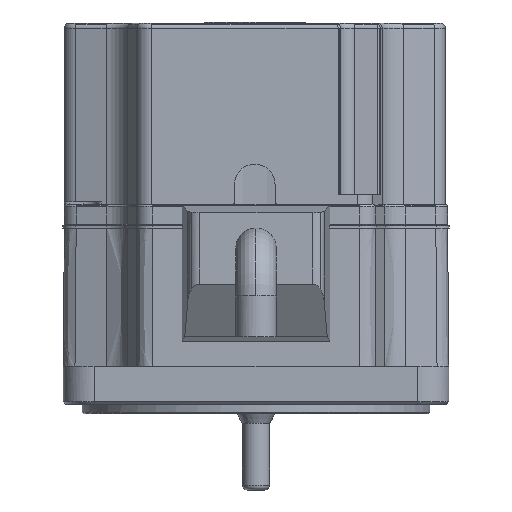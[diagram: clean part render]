
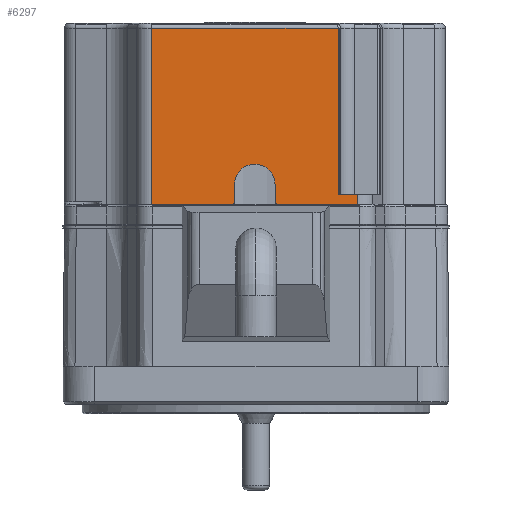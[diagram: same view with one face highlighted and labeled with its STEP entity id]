
A CAD part, front view. The second image highlights one B-rep face of the part: STEP entity #6297.
In plain terms, the highlighted planar face has unit normal (0, -1, 0) as drawn and (1, 0, 0) by its records, which use the part's own axes.
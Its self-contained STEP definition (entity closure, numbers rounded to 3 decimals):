
#213 = ORIENTED_EDGE ( 'NONE', *, *, #12255, .T. ) ;
#217 = LINE ( 'NONE', #8548, #13377 ) ;
#362 = CARTESIAN_POINT ( 'NONE',  ( 40., -21.661, 0. ) ) ;
#797 = ORIENTED_EDGE ( 'NONE', *, *, #5822, .T. ) ;
#825 = DIRECTION ( 'NONE',  ( -1., 0., 0. ) ) ;
#875 = CARTESIAN_POINT ( 'NONE',  ( 40., 4.25, 4.2 ) ) ;
#878 = DIRECTION ( 'NONE',  ( 0., 1., 0. ) ) ;
#913 = EDGE_CURVE ( 'NONE', #14838, #8026, #11823, .T. ) ;
#964 = CARTESIAN_POINT ( 'NONE',  ( 40., -21.661, 37. ) ) ;
#1065 = CARTESIAN_POINT ( 'NONE',  ( 40., 21.661, 2. ) ) ;
#1196 = VECTOR ( 'NONE', #18405, 1000. ) ;
#1235 = VERTEX_POINT ( 'NONE', #17318 ) ;
#1296 = AXIS2_PLACEMENT_3D ( 'NONE', #12077, #7871, #8065 ) ;
#1460 = DIRECTION ( 'NONE',  ( 0., 0., 1. ) ) ;
#1521 = VERTEX_POINT ( 'NONE', #11857 ) ;
#2029 = CARTESIAN_POINT ( 'NONE',  ( 40., -4.75, 0. ) ) ;
#2387 = CARTESIAN_POINT ( 'NONE',  ( 40., -4.25, 0.5 ) ) ;
#2670 = VERTEX_POINT ( 'NONE', #16533 ) ;
#2687 = VERTEX_POINT ( 'NONE', #1065 ) ;
#3032 = AXIS2_PLACEMENT_3D ( 'NONE', #15751, #5175, #10007 ) ;
#3512 = DIRECTION ( 'NONE',  ( 0., -0.707, -0.707 ) ) ;
#3526 = CARTESIAN_POINT ( 'NONE',  ( 40., 0., 4.2 ) ) ;
#3544 = LINE ( 'NONE', #14817, #15244 ) ;
#3633 = VERTEX_POINT ( 'NONE', #14055 ) ;
#3906 = CARTESIAN_POINT ( 'NONE',  ( 40., -21.661, 0. ) ) ;
#3914 = VECTOR ( 'NONE', #17788, 1000. ) ;
#4063 = CIRCLE ( 'NONE', #4357, 4.25 ) ;
#4357 = AXIS2_PLACEMENT_3D ( 'NONE', #3526, #17738, #4851 ) ;
#4365 = CARTESIAN_POINT ( 'NONE',  ( 40., 21.661, -2. ) ) ;
#4457 = EDGE_CURVE ( 'NONE', #15839, #2670, #7276, .T. ) ;
#4460 = LINE ( 'NONE', #362, #16914 ) ;
#4851 = DIRECTION ( 'NONE',  ( 0., 1., 0. ) ) ;
#4901 = ORIENTED_EDGE ( 'NONE', *, *, #8143, .T. ) ;
#5067 = LINE ( 'NONE', #964, #10995 ) ;
#5120 = CARTESIAN_POINT ( 'NONE',  ( 40., 4.75, 0.5 ) ) ;
#5123 = CARTESIAN_POINT ( 'NONE',  ( 40., -4.25, 0.5 ) ) ;
#5175 = DIRECTION ( 'NONE',  ( -1., 0., 0. ) ) ;
#5184 = ORIENTED_EDGE ( 'NONE', *, *, #15363, .F. ) ;
#5185 = DIRECTION ( 'NONE',  ( 0., -1., 0. ) ) ;
#5320 = VERTEX_POINT ( 'NONE', #15242 ) ;
#5347 = ORIENTED_EDGE ( 'NONE', *, *, #11362, .F. ) ;
#5781 = ORIENTED_EDGE ( 'NONE', *, *, #11126, .T. ) ;
#5822 = EDGE_CURVE ( 'NONE', #18355, #2670, #6522, .T. ) ;
#5844 = CIRCLE ( 'NONE', #14682, 0.5 ) ;
#5991 = DIRECTION ( 'NONE',  ( 0., -1., 0. ) ) ;
#6297 = ADVANCED_FACE ( 'NONE', ( #8677 ), #6772, .T. ) ;
#6381 = EDGE_CURVE ( 'NONE', #5320, #1235, #4460, .T. ) ;
#6522 = LINE ( 'NONE', #875, #11260 ) ;
#6772 = PLANE ( 'NONE',  #11135 ) ;
#6985 = AXIS2_PLACEMENT_3D ( 'NONE', #5120, #825, #7994 ) ;
#7276 = CIRCLE ( 'NONE', #6985, 0.5 ) ;
#7380 = VECTOR ( 'NONE', #16984, 1000. ) ;
#7614 = ORIENTED_EDGE ( 'NONE', *, *, #17650, .F. ) ;
#7871 = DIRECTION ( 'NONE',  ( -1., 0., 0. ) ) ;
#7945 = DIRECTION ( 'NONE',  ( 0., 0., 1. ) ) ;
#7994 = DIRECTION ( 'NONE',  ( 0., -0.707, -0.707 ) ) ;
#8026 = VERTEX_POINT ( 'NONE', #10883 ) ;
#8065 = DIRECTION ( 'NONE',  ( 0., 0.707, -0.707 ) ) ;
#8143 = EDGE_CURVE ( 'NONE', #18146, #13555, #17084, .T. ) ;
#8314 = EDGE_CURVE ( 'NONE', #18146, #15839, #5844, .T. ) ;
#8335 = CARTESIAN_POINT ( 'NONE',  ( 40., -21.661, 0. ) ) ;
#8548 = CARTESIAN_POINT ( 'NONE',  ( 40., 21.661, -2. ) ) ;
#8677 = FACE_OUTER_BOUND ( 'NONE', #17071, .T. ) ;
#9485 = DIRECTION ( 'NONE',  ( 0., 0., -1. ) ) ;
#9555 = ORIENTED_EDGE ( 'NONE', *, *, #17537, .F. ) ;
#9654 = LINE ( 'NONE', #2387, #1196 ) ;
#9743 = DIRECTION ( 'NONE',  ( 1., 0., 0. ) ) ;
#9757 = ORIENTED_EDGE ( 'NONE', *, *, #913, .F. ) ;
#9861 = LINE ( 'NONE', #8335, #13069 ) ;
#10007 = DIRECTION ( 'NONE',  ( 0., 0.707, -0.707 ) ) ;
#10016 = ORIENTED_EDGE ( 'NONE', *, *, #16785, .T. ) ;
#10362 = CIRCLE ( 'NONE', #3032, 0.5 ) ;
#10450 = LINE ( 'NONE', #16272, #3914 ) ;
#10883 = CARTESIAN_POINT ( 'NONE',  ( 40., 19.5, -2. ) ) ;
#10892 = DIRECTION ( 'NONE',  ( 0., 1., 0. ) ) ;
#10995 = VECTOR ( 'NONE', #10892, 1000. ) ;
#11126 = EDGE_CURVE ( 'NONE', #2687, #1521, #12449, .T. ) ;
#11135 = AXIS2_PLACEMENT_3D ( 'NONE', #3906, #9743, #15557 ) ;
#11260 = VECTOR ( 'NONE', #9485, 1000. ) ;
#11362 = EDGE_CURVE ( 'NONE', #15736, #1521, #10450, .T. ) ;
#11499 = EDGE_CURVE ( 'NONE', #3633, #15186, #14885, .T. ) ;
#11523 = CARTESIAN_POINT ( 'NONE',  ( 40., 17.5, 37. ) ) ;
#11823 = LINE ( 'NONE', #4365, #17322 ) ;
#11857 = CARTESIAN_POINT ( 'NONE',  ( 40., 17.5, 2. ) ) ;
#12077 = CARTESIAN_POINT ( 'NONE',  ( 40., -4.75, 0.5 ) ) ;
#12234 = CARTESIAN_POINT ( 'NONE',  ( 40., -4.25, 4.2 ) ) ;
#12255 = EDGE_CURVE ( 'NONE', #17561, #18355, #4063, .T. ) ;
#12449 = LINE ( 'NONE', #18343, #13680 ) ;
#12602 = CARTESIAN_POINT ( 'NONE',  ( 40., 4.75, 0. ) ) ;
#12720 = CARTESIAN_POINT ( 'NONE',  ( 40., 4.25, 4.2 ) ) ;
#13069 = VECTOR ( 'NONE', #878, 1000. ) ;
#13377 = VECTOR ( 'NONE', #1460, 1000. ) ;
#13484 = CARTESIAN_POINT ( 'NONE',  ( 40., 4.75, 0. ) ) ;
#13555 = VERTEX_POINT ( 'NONE', #16579 ) ;
#13680 = VECTOR ( 'NONE', #5185, 1000. ) ;
#13689 = ORIENTED_EDGE ( 'NONE', *, *, #11499, .F. ) ;
#14055 = CARTESIAN_POINT ( 'NONE',  ( 40., -4.396, 0.146 ) ) ;
#14594 = DIRECTION ( 'NONE',  ( 0., 0., 1. ) ) ;
#14682 = AXIS2_PLACEMENT_3D ( 'NONE', #17912, #16587, #3512 ) ;
#14728 = VERTEX_POINT ( 'NONE', #5123 ) ;
#14817 = CARTESIAN_POINT ( 'NONE',  ( 40., 19.5, -2. ) ) ;
#14838 = VERTEX_POINT ( 'NONE', #17703 ) ;
#14885 = CIRCLE ( 'NONE', #1296, 0.5 ) ;
#15186 = VERTEX_POINT ( 'NONE', #2029 ) ;
#15208 = ORIENTED_EDGE ( 'NONE', *, *, #16256, .T. ) ;
#15242 = CARTESIAN_POINT ( 'NONE',  ( 40., -21.661, 0. ) ) ;
#15244 = VECTOR ( 'NONE', #7945, 1000. ) ;
#15363 = EDGE_CURVE ( 'NONE', #14728, #3633, #10362, .T. ) ;
#15557 = DIRECTION ( 'NONE',  ( 0., 1., 0. ) ) ;
#15736 = VERTEX_POINT ( 'NONE', #11523 ) ;
#15751 = CARTESIAN_POINT ( 'NONE',  ( 40., -4.75, 0.5 ) ) ;
#15839 = VERTEX_POINT ( 'NONE', #17895 ) ;
#16045 = EDGE_CURVE ( 'NONE', #14838, #2687, #217, .T. ) ;
#16256 = EDGE_CURVE ( 'NONE', #5320, #15186, #9861, .T. ) ;
#16272 = CARTESIAN_POINT ( 'NONE',  ( 40., 17.5, 37. ) ) ;
#16533 = CARTESIAN_POINT ( 'NONE',  ( 40., 4.25, 0.5 ) ) ;
#16579 = CARTESIAN_POINT ( 'NONE',  ( 40., 19.5, 0. ) ) ;
#16587 = DIRECTION ( 'NONE',  ( -1., 0., 0. ) ) ;
#16785 = EDGE_CURVE ( 'NONE', #14728, #17561, #9654, .T. ) ;
#16914 = VECTOR ( 'NONE', #14594, 1000. ) ;
#16984 = DIRECTION ( 'NONE',  ( 0., 1., 0. ) ) ;
#17071 = EDGE_LOOP ( 'NONE', ( #4901, #9555, #9757, #17269, #5781, #5347, #7614, #17897, #15208, #13689, #5184, #10016, #213, #797, #17181, #17093 ) ) ;
#17084 = LINE ( 'NONE', #12602, #7380 ) ;
#17093 = ORIENTED_EDGE ( 'NONE', *, *, #8314, .F. ) ;
#17181 = ORIENTED_EDGE ( 'NONE', *, *, #4457, .F. ) ;
#17269 = ORIENTED_EDGE ( 'NONE', *, *, #16045, .T. ) ;
#17318 = CARTESIAN_POINT ( 'NONE',  ( 40., -21.661, 37. ) ) ;
#17322 = VECTOR ( 'NONE', #5991, 1000. ) ;
#17537 = EDGE_CURVE ( 'NONE', #8026, #13555, #3544, .T. ) ;
#17561 = VERTEX_POINT ( 'NONE', #12234 ) ;
#17650 = EDGE_CURVE ( 'NONE', #1235, #15736, #5067, .T. ) ;
#17703 = CARTESIAN_POINT ( 'NONE',  ( 40., 21.661, -2. ) ) ;
#17738 = DIRECTION ( 'NONE',  ( -1., 0., 0. ) ) ;
#17788 = DIRECTION ( 'NONE',  ( 0., 0., -1. ) ) ;
#17895 = CARTESIAN_POINT ( 'NONE',  ( 40., 4.396, 0.146 ) ) ;
#17897 = ORIENTED_EDGE ( 'NONE', *, *, #6381, .F. ) ;
#17912 = CARTESIAN_POINT ( 'NONE',  ( 40., 4.75, 0.5 ) ) ;
#18146 = VERTEX_POINT ( 'NONE', #13484 ) ;
#18343 = CARTESIAN_POINT ( 'NONE',  ( 40., 21.661, 2. ) ) ;
#18355 = VERTEX_POINT ( 'NONE', #12720 ) ;
#18405 = DIRECTION ( 'NONE',  ( 0., 0., 1. ) ) ;
